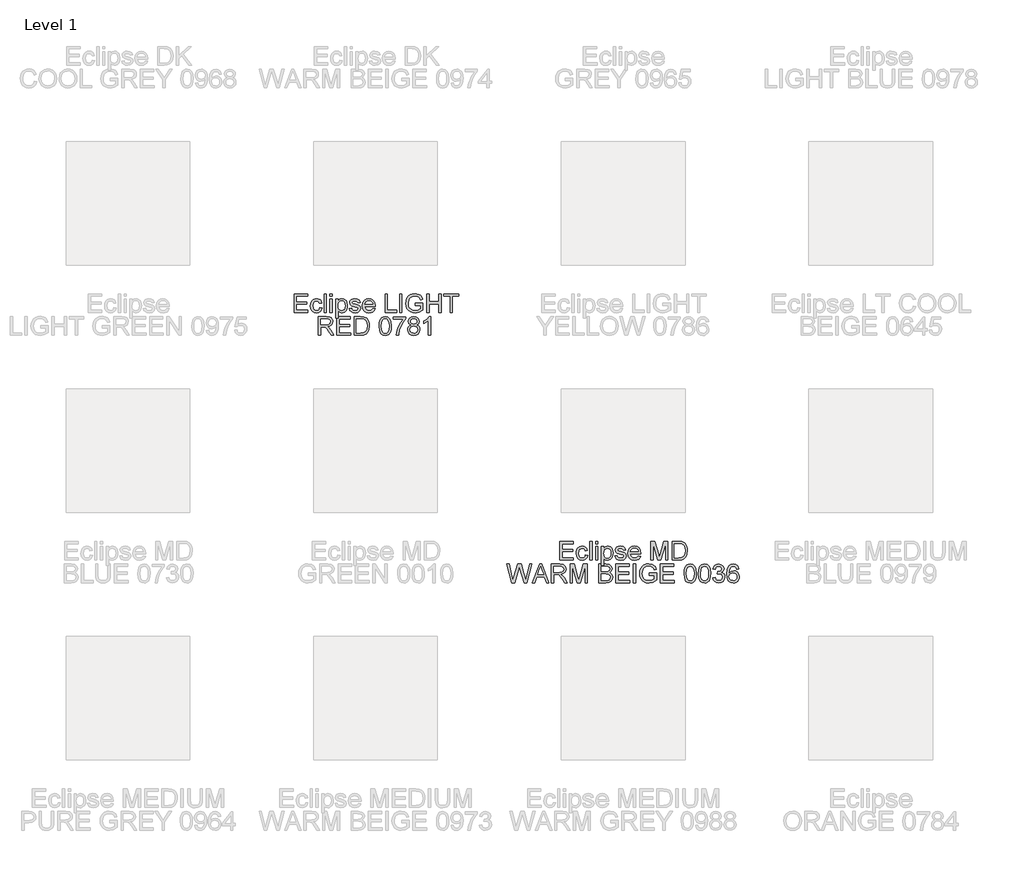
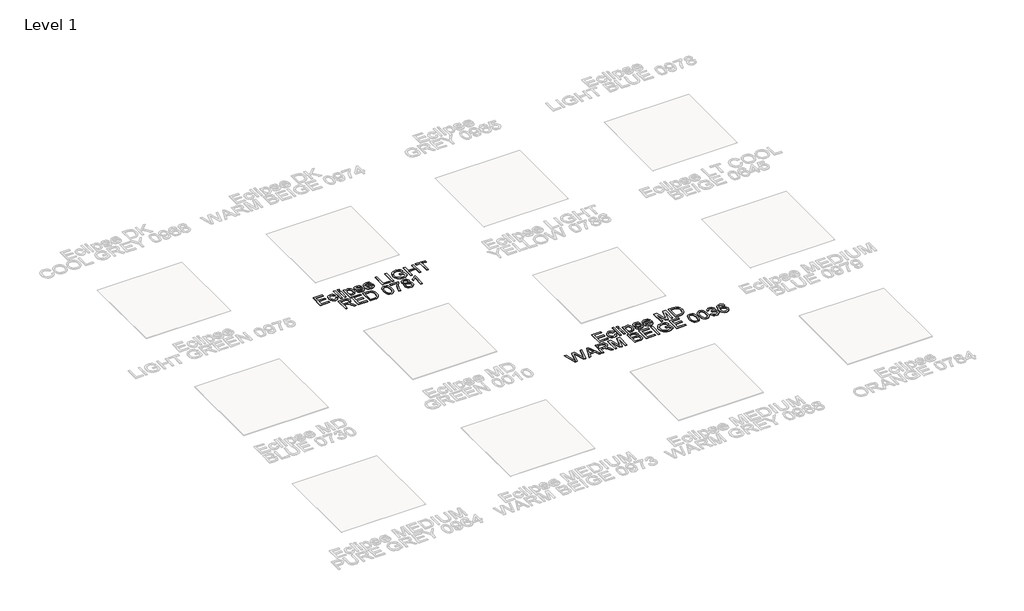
# One storey, part 8 of 13: 2 proxies.
"""IFC4 building model written with IfcOpenShell, lengths in millimetres."""

from ifc_helpers import new_model, si_unit, origin, origin_with_axes, place, context, project, spatial, polyline, outline, extrude, element, save

model = new_model("IFC4")

# Units and contexts
model_context = context("Model", 3, world=origin())
ifc_project = project(units=[si_unit("LENGTHUNIT", "METRE", prefix="MILLI")], contexts=[model_context])

# Site, building, storey
site = spatial("IfcSite", under=ifc_project)
building = spatial("IfcBuilding", under=site)
storey = spatial("IfcBuildingStorey", under=building, Name="Level 1", Elevation=0.0)

# Proxies
placement = place(None, origin())
element("IfcBuildingElementProxy", 1, Name="150mm Arial", ObjectType="150mm Arial", at=placement, inside=storey, context=model_context, shape_type="SweptSolid", body=[
    extrude(outline(polyline([(1407.9918437, -1362.9455422), (1407.9918437, -1212.261077), (1516.2963031, -1212.261077), (1516.2963031, -1231.0966352), (1426.8274019, -1231.0966352), (1426.8274019, -1275.8310858), (1511.5874136, -1275.8310858), (1511.5874136, -1294.6666439), (1426.8274019, -1294.6666439), (1426.8274019, -1344.1099841), (1518.6507479, -1344.1099841), (1518.6507479, -1362.9455422), (1407.9918437, -1362.9455422)])), origin_with_axes(), (0.0, 0.0, 1.0), 5.0),
    extrude(outline(polyline([(1615.1829834, -1322.9199812), (1634.0185416, -1325.2744259), (1628.7670261, -1342.0268523), (1618.8985916, -1354.6865914), (1605.34214, -1362.6466381), (1589.0265735, -1365.299987), (1568.9908004, -1361.5981744), (1553.3236259, -1350.4927367), (1543.2114696, -1332.4711175), (1539.8407508, -1308.0207603), (1541.2800891, -1291.2591369), (1545.598104, -1276.7323967), (1552.8637734, -1265.0015595), (1563.1460752, -1256.6276456), (1575.4471294, -1251.6060564), (1588.7690561, -1249.9321933), (1604.684551, -1252.2314558), (1617.4086695, -1259.1292432), (1626.5367415, -1270.2576735), (1631.6640968, -1285.2488648), (1612.8285386, -1287.6033096), (1604.0913412, -1273.4950351), (1588.9162089, -1268.7677515), (1576.7439134, -1271.0946051), (1567.0824125, -1278.0751659), (1560.7778348, -1290.0865131), (1558.6763089, -1307.5057256), (1560.7318496, -1325.1594628), (1566.8984715, -1337.2121967), (1576.3852285, -1344.1513708), (1588.4011742, -1346.4644288), (1598.1546455, -1345.020492), (1606.1514804, -1340.6886815), (1611.9686145, -1333.3586328), (1615.1829834, -1322.9199812)])), origin_with_axes(), (0.0, 0.0, 1.0), 5.0),
    extrude(outline(polyline([(1650.4996549, -1362.9455422), (1650.4996549, -1212.261077), (1669.3352131, -1212.261077), (1669.3352131, -1362.9455422), (1650.4996549, -1362.9455422)])), origin_with_axes(), (0.0, 0.0, 1.0), 5.0),
    extrude(outline(polyline([(1697.5885503, -1231.0966352), (1697.5885503, -1212.261077), (1716.4241085, -1212.261077), (1716.4241085, -1231.0966352), (1697.5885503, -1231.0966352)])), origin_with_axes(), (0.0, 0.0, 1.0), 5.0),
    extrude(outline(polyline([(1697.5885503, -1362.9455422), (1697.5885503, -1252.2866381), (1716.4241085, -1252.2866381), (1716.4241085, -1362.9455422), (1697.5885503, -1362.9455422)])), origin_with_axes(), (0.0, 0.0, 1.0), 5.0),
    extrude(outline(polyline([(1744.6774457, -1405.3255481), (1744.6774457, -1252.2866381), (1763.5130039, -1252.2866381), (1763.5130039, -1270.7543142), (1776.5360265, -1255.1377235), (1794.1207859, -1249.9321933), (1806.8586999, -1251.7532092), (1817.9963273, -1257.2162568), (1827.0646185, -1265.9902424), (1833.5945239, -1277.7440721), (1838.8552365, -1306.7699616), (1837.3699129, -1322.8785944), (1832.9139422, -1337.2857731), (1825.6298787, -1349.260332), (1815.6602767, -1358.0711058), (1804.0490012, -1363.4927667), (1791.8399175, -1365.299987), (1775.4507746, -1360.4623388), (1763.5130039, -1348.2302624), (1763.5130039, -1405.3255481), (1744.6774457, -1405.3255481)]), holes=[polyline([(1763.5130039, -1308.4990069), (1765.5501504, -1325.3847905), (1771.66159, -1337.1938026), (1780.6792975, -1344.1467723), (1791.4352473, -1346.4644288), (1802.3659411, -1344.0639988), (1811.6135747, -1336.8627088), (1817.9181524, -1324.6214354), (1820.0196783, -1307.1010554), (1817.9687362, -1290.3072423), (1811.8159098, -1278.3326833), (1802.811998, -1271.1589844), (1792.2077995, -1268.7677515), (1781.5622142, -1271.3107358), (1772.213413, -1278.9396886), (1765.6881062, -1291.4154868), (1763.5130039, -1308.4990069)])]), origin_with_axes(), (0.0, 0.0, 1.0), 5.0),
    extrude(outline(polyline([(1852.9819051, -1329.9833155), (1871.8174632, -1327.6288707), (1874.7881103, -1335.6854864), (1880.5362665, -1341.6083865), (1900.5122589, -1346.4644288), (1919.715699, -1342.0130567), (1925.9696929, -1331.565208), (1924.3969974, -1326.764348), (1919.6789108, -1323.1039222), (1900.2915297, -1317.732845), (1871.9278278, -1308.517401), (1859.5485987, -1297.7568527), (1855.3363499, -1282.5633263), (1858.7208642, -1268.5286282), (1867.9547023, -1257.804868), (1879.9292612, -1252.2314558), (1896.1344631, -1249.9321933), (1919.0535114, -1253.6294074), (1933.6216384, -1263.6357976), (1940.0963615, -1280.5399753), (1921.2608034, -1282.8944201), (1914.179075, -1272.5017537), (1897.6059911, -1268.7677515), (1879.5797733, -1272.3362068), (1874.171908, -1280.6503399), (1876.4159882, -1286.1317816), (1883.4425343, -1290.2888482), (1899.6661303, -1294.2987619), (1927.3124622, -1303.164718), (1940.1515438, -1313.2078965), (1944.8052511, -1329.5786453), (1939.3422035, -1347.604863), (1923.57846, -1360.683068), (1900.2547415, -1365.299987), (1881.2628335, -1363.0743009), (1867.4028793, -1356.3972427), (1858.1506471, -1345.3423888), (1852.9819051, -1329.9833155)])), origin_with_axes(), (0.0, 0.0, 1.0), 5.0),
    extrude(outline(polyline([(2043.4712022, -1329.9833155), (2061.9388783, -1332.3377602), (2055.2848128, -1346.2528967), (2044.6668187, -1356.6547601), (2030.3240194, -1363.1386803), (2012.4955382, -1365.299987), (1990.3950273, -1361.5705833), (1973.3896821, -1350.3823721), (1962.5463603, -1332.4619204), (1958.9319197, -1308.5357951), (1962.5831485, -1283.804928), (1973.5368349, -1265.3096607), (1990.3122539, -1253.7765602), (2011.4286804, -1249.9321933), (2031.8875179, -1253.7673631), (2048.235274, -1265.2728725), (2058.9544357, -1283.7313516), (2062.5274895, -1308.4254305), (2062.4171249, -1313.5022021), (1977.7674778, -1313.5022021), (1981.027832, -1327.6012795), (1988.6016026, -1337.9663548), (1999.5322964, -1344.3399103), (2012.8634202, -1346.4644288), (2031.3310963, -1342.5280915), (2043.4712022, -1329.9833155)]), holes=[polyline([(1977.7674778, -1294.6666439), (2043.6919314, -1294.6666439), (2041.1443486, -1284.715436), (2036.1503505, -1277.5969193), (2025.1690729, -1270.9750434), (2011.355104, -1268.7677515), (1998.6585766, -1270.5289865), (1988.1601442, -1275.8126917), (1980.8622851, -1284.0486498), (1977.7674778, -1294.6666439)])]), origin_with_axes(), (0.0, 0.0, 1.0), 5.0),
    extrude(outline(polyline([(2142.5786117, -1362.9455422), (2142.5786117, -1212.261077), (2161.4141698, -1212.261077), (2161.4141698, -1344.1099841), (2236.7564025, -1344.1099841), (2236.7564025, -1362.9455422), (2142.5786117, -1362.9455422)])), origin_with_axes(), (0.0, 0.0, 1.0), 5.0),
    extrude(outline(polyline([(2260.3008501, -1362.9455422), (2260.3008501, -1212.261077), (2279.1364083, -1212.261077), (2279.1364083, -1362.9455422), (2260.3008501, -1362.9455422)])), origin_with_axes(), (0.0, 0.0, 1.0), 5.0),
    extrude(outline(polyline([(2387.4408677, -1304.084423), (2387.4408677, -1285.2488648), (2448.6564317, -1285.2488648), (2448.6564317, -1341.5715983), (2418.4349258, -1359.3402987), (2386.4843745, -1365.299987), (2365.3541524, -1362.9317467), (2346.2564783, -1355.8270256), (2330.3915673, -1344.2341443), (2318.9596343, -1328.4014229), (2312.0480513, -1309.4095149), (2309.7441903, -1288.3390736), (2312.0388542, -1267.116881), (2318.9228461, -1247.3754134), (2330.1110573, -1230.8161251), (2345.3183792, -1219.1404703), (2363.8412377, -1212.2150918), (2384.9760583, -1209.9066322), (2414.4434061, -1215.2593153), (2426.1926373, -1221.660462), (2435.0999802, -1230.1585361), (2446.4859279, -1255.0825412), (2429.1218977, -1259.9753718), (2420.5318531, -1242.5561593), (2405.8533615, -1232.5129808), (2384.6817527, -1228.7421904), (2360.5670879, -1232.8072864), (2344.1595509, -1243.4758643), (2334.4658604, -1257.988809), (2328.5797484, -1287.5665214), (2330.3501805, -1305.5789436), (2335.6614769, -1320.3999895), (2344.352689, -1331.923893), (2356.2628686, -1340.044888), (2370.2009977, -1344.8595436), (2384.9760583, -1346.4644288), (2410.7461921, -1341.6267806), (2429.8208735, -1331.3076906), (2429.8208735, -1304.084423), (2387.4408677, -1304.084423)])), origin_with_axes(), (0.0, 0.0, 1.0), 5.0),
    extrude(outline(polyline([(2479.2642137, -1362.9455422), (2479.2642137, -1212.261077), (2498.0997718, -1212.261077), (2498.0997718, -1273.476641), (2578.150894, -1273.476641), (2578.150894, -1212.261077), (2596.9864521, -1212.261077), (2596.9864521, -1362.9455422), (2578.150894, -1362.9455422), (2578.150894, -1292.3121992), (2498.0997718, -1292.3121992), (2498.0997718, -1362.9455422), (2479.2642137, -1362.9455422)])), origin_with_axes(), (0.0, 0.0, 1.0), 5.0),
    extrude(outline(polyline([(2667.6197952, -1362.9455422), (2667.6197952, -1231.0966352), (2618.1764551, -1231.0966352), (2618.1764551, -1212.261077), (2735.8986935, -1212.261077), (2735.8986935, -1231.0966352), (2686.4553534, -1231.0966352), (2686.4553534, -1362.9455422), (2667.6197952, -1362.9455422)])), origin_with_axes(), (0.0, 0.0, 1.0), 5.0),
    extrude(outline(polyline([(1602.2335372, -1545.907769), (1602.2335372, -1395.2233038), (1667.1647093, -1395.2233038), (1697.3126388, -1399.2883998), (1706.5924622, -1404.9169943), (1713.7937522, -1413.6725858), (1718.4152698, -1424.5297032), (1719.9557756, -1436.4628754), (1717.4035943, -1451.3069139), (1709.7470503, -1463.6125667), (1696.7562173, -1472.6348726), (1678.2011692, -1477.6288707), (1688.9065352, -1485.6854864), (1704.173638, -1505.0728675), (1729.2999783, -1545.907769), (1707.4109996, -1545.907769), (1687.8028892, -1514.6745876), (1673.6394324, -1493.9996195), (1663.6882245, -1484.2323525), (1654.7302979, -1480.6455031), (1643.8042026, -1479.9833155), (1621.0690953, -1479.9833155), (1621.0690953, -1545.907769), (1602.2335372, -1545.907769)]), holes=[polyline([(1621.0690953, -1461.1477573), (1663.228372, -1461.1477573), (1684.7310746, -1458.4806128), (1696.9447568, -1449.9457506), (1701.1202175, -1437.1618512), (1699.1290562, -1427.9739984), (1693.1555723, -1420.5703732), (1682.877869, -1415.6867398), (1667.9740497, -1414.0588619), (1621.0690953, -1414.0588619), (1621.0690953, -1461.1477573)])]), origin_with_axes(), (0.0, 0.0, 1.0), 5.0),
    extrude(outline(polyline([(1752.9180024, -1545.907769), (1752.9180024, -1395.2233038), (1861.2224618, -1395.2233038), (1861.2224618, -1414.0588619), (1771.7535605, -1414.0588619), (1771.7535605, -1458.7933125), (1856.5135722, -1458.7933125), (1856.5135722, -1477.6288707), (1771.7535605, -1477.6288707), (1771.7535605, -1527.0722108), (1863.5769065, -1527.0722108), (1863.5769065, -1545.907769), (1752.9180024, -1545.907769)])), origin_with_axes(), (0.0, 0.0, 1.0), 5.0),
    extrude(outline(polyline([(1891.8302438, -1545.907769), (1891.8302438, -1395.2233038), (1943.8119697, -1395.2233038), (1970.7041435, -1397.3938075), (1992.8506396, -1408.17275), (2003.2708972, -1419.6506683), (2010.6929164, -1433.9244897), (2015.1350915, -1450.7183027), (2016.6158165, -1469.756196), (2012.6059028, -1500.1616429), (2002.3052069, -1522.1058039), (1988.5464203, -1535.77262), (1970.5385966, -1543.332595), (1946.3135673, -1545.907769), (1891.8302438, -1545.907769)]), holes=[polyline([(1910.6658019, -1527.0722108), (1943.9959107, -1527.0722108), (1968.2393342, -1524.3498841), (1982.21885, -1516.6611504), (1993.6783741, -1497.9543509), (1997.7802584, -1469.4618904), (1995.770703, -1448.9340751), (1989.7420368, -1433.7773369), (1980.834694, -1423.3662764), (1970.1891087, -1417.0754943), (1943.4808759, -1414.0588619), (1910.6658019, -1414.0588619), (1910.6658019, -1527.0722108)])]), origin_with_axes(), (0.0, 0.0, 1.0), 5.0),
    extrude(outline(polyline([(2094.3124939, -1471.779547), (2095.6966499, -1447.6602837), (2099.8491179, -1428.4246538), (2106.7285113, -1413.7783519), (2116.2934431, -1403.4270723), (2128.6128914, -1397.2742459), (2143.7558341, -1395.2233038), (2165.7551774, -1400.0793461), (2180.9487038, -1414.077256), (2189.7778717, -1436.3709049), (2193.1991742, -1471.779547), (2191.8288138, -1495.7608545), (2187.7177325, -1514.9504991), (2180.8797259, -1529.6105966), (2171.3285896, -1540.003263), (2158.9815501, -1546.1974761), (2143.7558341, -1548.2622138), (2124.1845119, -1544.6753643), (2109.3220793, -1533.914816), (2098.0648903, -1508.4297907), (2094.3124939, -1471.779547)]), holes=[polyline([(2113.1480521, -1471.7427588), (2115.355344, -1501.371055), (2121.97722, -1518.5189545), (2131.8364574, -1526.6997303), (2143.7558341, -1529.4266556), (2155.6752107, -1526.6905333), (2165.5344482, -1518.4821663), (2172.1563241, -1501.3250697), (2174.3636161, -1471.7427588), (2172.2299005, -1442.7812487), (2165.8287538, -1425.499992), (2155.9879104, -1416.9191444), (2143.5351049, -1414.0588619), (2131.7444869, -1416.5788536), (2122.2715256, -1424.1388286), (2115.4289204, -1442.4961402), (2113.1480521, -1471.7427588)])]), origin_with_axes(), (0.0, 0.0, 1.0), 5.0),
    extrude(outline(polyline([(2209.6802876, -1416.4133067), (2209.6802876, -1397.5777485), (2308.5669679, -1397.5777485), (2308.5669679, -1412.8080631), (2280.5159658, -1453.3302649), (2268.2057145, -1478.7922975), (2259.0500514, -1504.9625029), (2252.0602935, -1545.907769), (2233.2247353, -1545.907769), (2240.7111339, -1503.4173986), (2249.4253387, -1478.9578444), (2261.2573433, -1455.3904041), (2289.7314098, -1416.4133067), (2209.6802876, -1416.4133067)])), origin_with_axes(), (0.0, 0.0, 1.0), 5.0),
    extrude(outline(polyline([(2352.4920781, -1462.9135909), (2335.3303831, -1451.2149434), (2329.7569708, -1433.0047847), (2332.7919973, -1418.2803078), (2341.8970767, -1406.1126108), (2356.0513364, -1397.9456305), (2374.233904, -1395.2233038), (2392.5268363, -1398.0100099), (2406.865037, -1406.3701282), (2416.1356633, -1418.7309633), (2419.2258721, -1433.5198195), (2413.7260362, -1451.2701257), (2397.0425877, -1462.9135909), (2408.6354691, -1468.8870748), (2417.0737624, -1477.684053), (2422.2195118, -1488.8814612), (2423.9347616, -1502.0562352), (2420.5318531, -1520.0640588), (2410.3231278, -1534.9448855), (2394.5593843, -1544.9328817), (2374.4914214, -1548.2622138), (2354.4234586, -1544.9190861), (2338.6597151, -1534.8897032), (2328.4509897, -1519.8663223), (2325.0480813, -1501.5412004), (2326.832309, -1487.8559902), (2332.184992, -1476.5988011), (2340.8302189, -1468.1559093), (2352.4920781, -1462.9135909)]), holes=[polyline([(2343.8836394, -1500.8790128), (2347.0290305, -1515.0608637), (2358.1574609, -1525.6742593), (2374.6385742, -1529.4266556), (2387.4592618, -1527.4538884), (2397.0793759, -1521.5355868), (2403.0942466, -1512.5730617), (2405.0992034, -1501.467624), (2403.0298672, -1490.1736467), (2396.8218586, -1481.013385), (2386.9810152, -1474.9433321), (2374.0131749, -1472.9199812), (2361.3718298, -1474.915741), (2351.8482846, -1480.9030204), (2345.8748007, -1489.8885382), (2343.8836394, -1500.8790128)]), polyline([(2348.592529, -1433.5566077), (2350.2617935, -1441.7787703), (2355.2695872, -1448.3454639), (2363.4687572, -1452.6496832), (2374.7121506, -1454.084423), (2385.6934282, -1452.6588803), (2393.768438, -1448.3822521), (2398.7348449, -1442.0362877), (2400.3903139, -1434.4027363), (2398.6796626, -1426.4794778), (2393.5477088, -1419.9265797), (2385.3623344, -1415.5257914), (2374.4914214, -1414.0588619), (2363.5515306, -1415.4936017), (2355.3799518, -1419.7978211), (2350.2893847, -1426.1069973), (2348.592529, -1433.5566077)])]), origin_with_axes(), (0.0, 0.0, 1.0), 5.0),
    extrude(outline(polyline([(2511.0492181, -1545.907769), (2492.2136599, -1545.907769), (2492.2136599, -1428.4798361), (2474.3713831, -1441.1901591), (2454.5425436, -1450.6999086), (2454.5425436, -1432.8944201), (2482.1520873, -1415.2728725), (2498.9091122, -1395.2233038), (2511.0492181, -1395.2233038), (2511.0492181, -1545.907769)])), origin_with_axes(), (0.0, 0.0, 1.0), 5.0),
])
element("IfcBuildingElementProxy", 2, Name="150mm Arial", ObjectType="150mm Arial", at=placement, inside=storey, context=model_context, shape_type="SweptSolid", body=[
    extrude(outline(polyline([(3553.9674194, -3362.9455422), (3553.9674194, -3212.261077), (3662.2718788, -3212.261077), (3662.2718788, -3231.0966352), (3572.8029776, -3231.0966352), (3572.8029776, -3275.8310858), (3657.5629892, -3275.8310858), (3657.5629892, -3294.6666439), (3572.8029776, -3294.6666439), (3572.8029776, -3344.1099841), (3664.6263236, -3344.1099841), (3664.6263236, -3362.9455422), (3553.9674194, -3362.9455422)])), origin_with_axes(), (0.0, 0.0, 1.0), 5.0),
    extrude(outline(polyline([(3761.1585591, -3322.9199812), (3779.9941172, -3325.2744259), (3774.7426018, -3342.0268523), (3764.8741672, -3354.6865914), (3751.3177157, -3362.6466381), (3735.0021492, -3365.299987), (3714.9663761, -3361.5981744), (3699.2992016, -3350.4927367), (3689.1870453, -3332.4711175), (3685.8163265, -3308.0207603), (3687.2556648, -3291.2591369), (3691.5736797, -3276.7323967), (3698.8393491, -3265.0015595), (3709.1216509, -3256.6276456), (3721.4227051, -3251.6060564), (3734.7446318, -3249.9321933), (3750.6601266, -3252.2314558), (3763.3842452, -3259.1292432), (3772.5123172, -3270.2576735), (3777.6396725, -3285.2488648), (3758.8041143, -3287.6033096), (3750.0669169, -3273.4950351), (3734.8917846, -3268.7677515), (3722.7194891, -3271.0946051), (3713.0579882, -3278.0751659), (3706.7534105, -3290.0865131), (3704.6518846, -3307.5057256), (3706.7074253, -3325.1594628), (3712.8740472, -3337.2121967), (3722.3608042, -3344.1513708), (3734.3767498, -3346.4644288), (3744.1302212, -3345.020492), (3752.1270561, -3340.6886815), (3757.9441902, -3333.3586328), (3761.1585591, -3322.9199812)])), origin_with_axes(), (0.0, 0.0, 1.0), 5.0),
    extrude(outline(polyline([(3796.4752306, -3362.9455422), (3796.4752306, -3212.261077), (3815.3107888, -3212.261077), (3815.3107888, -3362.9455422), (3796.4752306, -3362.9455422)])), origin_with_axes(), (0.0, 0.0, 1.0), 5.0),
    extrude(outline(polyline([(3843.564126, -3231.0966352), (3843.564126, -3212.261077), (3862.3996842, -3212.261077), (3862.3996842, -3231.0966352), (3843.564126, -3231.0966352)])), origin_with_axes(), (0.0, 0.0, 1.0), 5.0),
    extrude(outline(polyline([(3843.564126, -3362.9455422), (3843.564126, -3252.2866381), (3862.3996842, -3252.2866381), (3862.3996842, -3362.9455422), (3843.564126, -3362.9455422)])), origin_with_axes(), (0.0, 0.0, 1.0), 5.0),
    extrude(outline(polyline([(3890.6530214, -3405.3255481), (3890.6530214, -3252.2866381), (3909.4885795, -3252.2866381), (3909.4885795, -3270.7543142), (3922.5116022, -3255.1377235), (3940.0963615, -3249.9321933), (3952.8342756, -3251.7532092), (3963.971903, -3257.2162568), (3973.0401942, -3265.9902424), (3979.5700996, -3277.7440721), (3984.8308122, -3306.7699616), (3983.3454886, -3322.8785944), (3978.8895179, -3337.2857731), (3971.6054544, -3349.260332), (3961.6358524, -3358.0711058), (3950.0245769, -3363.4927667), (3937.8154932, -3365.299987), (3921.4263503, -3360.4623388), (3909.4885795, -3348.2302624), (3909.4885795, -3405.3255481), (3890.6530214, -3405.3255481)]), holes=[polyline([(3909.4885795, -3308.4990069), (3911.5257261, -3325.3847905), (3917.6371657, -3337.1938026), (3926.6548731, -3344.1467723), (3937.410823, -3346.4644288), (3948.3415168, -3344.0639988), (3957.5891504, -3336.8627088), (3963.8937281, -3324.6214354), (3965.995254, -3307.1010554), (3963.9443119, -3290.3072423), (3957.7914855, -3278.3326833), (3948.7875737, -3271.1589844), (3938.1833752, -3268.7677515), (3927.5377899, -3271.3107358), (3918.1889887, -3278.9396886), (3911.6636818, -3291.4154868), (3909.4885795, -3308.4990069)])]), origin_with_axes(), (0.0, 0.0, 1.0), 5.0),
    extrude(outline(polyline([(3998.9574808, -3329.9833155), (4017.7930389, -3327.6288707), (4020.763686, -3335.6854864), (4026.5118422, -3341.6083865), (4046.4878345, -3346.4644288), (4065.6912747, -3342.0130567), (4071.9452686, -3331.565208), (4070.3725731, -3326.764348), (4065.6544865, -3323.1039222), (4046.2671053, -3317.732845), (4017.9034035, -3308.517401), (4005.5241744, -3297.7568527), (4001.3119255, -3282.5633263), (4004.6964399, -3268.5286282), (4013.930278, -3257.804868), (4025.9048369, -3252.2314558), (4042.1100388, -3249.9321933), (4065.0290871, -3253.6294074), (4079.5972141, -3263.6357976), (4086.0719372, -3280.5399753), (4067.2363791, -3282.8944201), (4060.1546507, -3272.5017537), (4043.5815668, -3268.7677515), (4025.555349, -3272.3362068), (4020.1474837, -3280.6503399), (4022.3915639, -3286.1317816), (4029.41811, -3290.2888482), (4045.641706, -3294.2987619), (4073.2880379, -3303.164718), (4086.1271195, -3313.2078965), (4090.7808268, -3329.5786453), (4085.3177791, -3347.604863), (4069.5540356, -3360.683068), (4046.2303171, -3365.299987), (4027.2384091, -3363.0743009), (4013.378455, -3356.3972427), (4004.1262228, -3345.3423888), (3998.9574808, -3329.9833155)])), origin_with_axes(), (0.0, 0.0, 1.0), 5.0),
    extrude(outline(polyline([(4189.4467779, -3329.9833155), (4207.914454, -3332.3377602), (4201.2603884, -3346.2528967), (4190.6423944, -3356.6547601), (4176.2995951, -3363.1386803), (4158.4711139, -3365.299987), (4136.370603, -3361.5705833), (4119.3652578, -3350.3823721), (4108.521936, -3332.4619204), (4104.9074954, -3308.5357951), (4108.5587242, -3283.804928), (4119.5124106, -3265.3096607), (4136.2878296, -3253.7765602), (4157.4042561, -3249.9321933), (4177.8630935, -3253.7673631), (4194.2108497, -3265.2728725), (4204.9300113, -3283.7313516), (4208.5030652, -3308.4254305), (4208.3927006, -3313.5022021), (4123.7430535, -3313.5022021), (4127.0034077, -3327.6012795), (4134.5771783, -3337.9663548), (4145.5078721, -3344.3399103), (4158.8389959, -3346.4644288), (4177.306672, -3342.5280915), (4189.4467779, -3329.9833155)]), holes=[polyline([(4123.7430535, -3294.6666439), (4189.6675071, -3294.6666439), (4187.1199243, -3284.715436), (4182.1259262, -3277.5969193), (4171.1446486, -3270.9750434), (4157.3306797, -3268.7677515), (4144.6341523, -3270.5289865), (4134.1357199, -3275.8126917), (4126.8378608, -3284.0486498), (4123.7430535, -3294.6666439)])]), origin_with_axes(), (0.0, 0.0, 1.0), 5.0),
    extrude(outline(polyline([(4288.5541874, -3362.9455422), (4288.5541874, -3212.261077), (4320.9645911, -3212.261077), (4351.7931023, -3318.468609), (4358.0103081, -3340.6518933), (4364.7425486, -3316.629199), (4395.056025, -3212.261077), (4427.4664288, -3212.261077), (4427.4664288, -3362.9455422), (4408.6308706, -3362.9455422), (4408.6308706, -3231.0966352), (4370.7758133, -3362.9455422), (4345.2448028, -3362.9455422), (4307.3897455, -3231.0966352), (4307.3897455, -3362.9455422), (4288.5541874, -3362.9455422)])), origin_with_axes(), (0.0, 0.0, 1.0), 5.0),
    extrude(outline(polyline([(4460.4286555, -3362.9455422), (4460.4286555, -3212.261077), (4512.4103814, -3212.261077), (4539.3025553, -3214.4315808), (4561.4490514, -3225.2105232), (4571.8693089, -3236.6884415), (4579.2913282, -3250.9622629), (4583.7335033, -3267.756076), (4585.2142283, -3286.7939692), (4581.2043145, -3317.1994161), (4570.9036187, -3339.1435771), (4557.1448321, -3352.8103933), (4539.1370084, -3360.3703683), (4514.911979, -3362.9455422), (4460.4286555, -3362.9455422)]), holes=[polyline([(4479.2642137, -3344.1099841), (4512.5943224, -3344.1099841), (4536.8377459, -3341.3876573), (4550.8172617, -3333.6989236), (4562.2767859, -3314.9921242), (4566.3786701, -3286.4996636), (4564.3691147, -3265.9718483), (4558.3404485, -3250.8151101), (4549.4331057, -3240.4040496), (4538.7875205, -3234.1132675), (4512.0792876, -3231.0966352), (4479.2642137, -3231.0966352), (4479.2642137, -3344.1099841)])]), origin_with_axes(), (0.0, 0.0, 1.0), 5.0),
    extrude(outline(polyline([(3165.3736679, -3545.907769), (3124.281249, -3395.2233038), (3143.7054184, -3395.2233038), (3167.5441717, -3494.2571369), (3174.9018116, -3524.8281307), (3182.7744863, -3497.788804), (3212.6465043, -3395.2233038), (3240.6423241, -3395.2233038), (3262.3473618, -3469.572255), (3278.4973814, -3524.8281307), (3285.6342921, -3495.1400537), (3309.6937746, -3395.2233038), (3329.117944, -3395.2233038), (3287.9887369, -3545.907769), (3267.8655918, -3545.907769), (3231.7395798, -3429.6570585), (3226.6995965, -3413.4334625), (3221.0342138, -3432.9679965), (3188.1087752, -3545.907769), (3165.3736679, -3545.907769)])), origin_with_axes(), (0.0, 0.0, 1.0), 5.0),
    extrude(outline(polyline([(3330.4055309, -3545.907769), (3390.5542371, -3395.2233038), (3406.5938921, -3395.2233038), (3466.7425983, -3545.907769), (3446.8401824, -3545.907769), (3429.5865168, -3498.8188736), (3367.5248242, -3498.8188736), (3350.3079469, -3545.907769), (3330.4055309, -3545.907769)]), holes=[polyline([(3374.4410058, -3479.9833155), (3422.7071235, -3479.9833155), (3409.1322779, -3442.9375985), (3398.5740646, -3414.0588619), (3389.1930738, -3439.700237), (3374.4410058, -3479.9833155)])]), origin_with_axes(), (0.0, 0.0, 1.0), 5.0),
    extrude(outline(polyline([(3486.8657435, -3545.907769), (3486.8657435, -3395.2233038), (3551.7969156, -3395.2233038), (3581.9448451, -3399.2883998), (3591.2246685, -3404.9169943), (3598.4259585, -3413.6725858), (3603.0474761, -3424.5297032), (3604.5879819, -3436.4628754), (3602.0358006, -3451.3069139), (3594.3792566, -3463.6125667), (3581.3884236, -3472.6348726), (3562.8333755, -3477.6288707), (3573.5387415, -3485.6854864), (3588.8058443, -3505.0728675), (3613.9321846, -3545.907769), (3592.0432059, -3545.907769), (3572.4350956, -3514.6745876), (3558.2716387, -3493.9996195), (3548.3204308, -3484.2323525), (3539.3625042, -3480.6455031), (3528.4364089, -3479.9833155), (3505.7013016, -3479.9833155), (3505.7013016, -3545.907769), (3486.8657435, -3545.907769)]), holes=[polyline([(3505.7013016, -3461.1477573), (3547.8605783, -3461.1477573), (3569.3632809, -3458.4806128), (3581.5769631, -3449.9457506), (3585.7524238, -3437.1618512), (3583.7612625, -3427.9739984), (3577.7877786, -3420.5703732), (3567.5100754, -3415.6867398), (3552.606256, -3414.0588619), (3505.7013016, -3414.0588619), (3505.7013016, -3461.1477573)])]), origin_with_axes(), (0.0, 0.0, 1.0), 5.0),
    extrude(outline(polyline([(3637.5502087, -3545.907769), (3637.5502087, -3395.2233038), (3669.9606125, -3395.2233038), (3700.7891237, -3501.4308358), (3707.0063294, -3523.6141201), (3713.7385699, -3499.5914258), (3744.0520463, -3395.2233038), (3776.4624501, -3395.2233038), (3776.4624501, -3545.907769), (3757.6268919, -3545.907769), (3757.6268919, -3414.0588619), (3719.7718346, -3545.907769), (3694.2408242, -3545.907769), (3656.3857669, -3414.0588619), (3656.3857669, -3545.907769), (3637.5502087, -3545.907769)])), origin_with_axes(), (0.0, 0.0, 1.0), 5.0),
    extrude(outline(polyline([(3868.2857961, -3545.907769), (3868.2857961, -3395.2233038), (3925.7857519, -3395.2233038), (3953.9471187, -3399.6562818), (3963.410883, -3405.2802778), (3970.5753848, -3413.2863097), (3976.5902555, -3432.5633263), (3971.531878, -3450.1664798), (3956.2463811, -3463.5022021), (3966.9195575, -3469.0756143), (3974.8060278, -3477.5552943), (3979.6758657, -3488.380222), (3981.299145, -3500.9893774), (3976.866167, -3521.2412812), (3965.8848894, -3535.6622554), (3949.4957465, -3543.3142009), (3925.3442935, -3545.907769), (3868.2857961, -3545.907769)]), holes=[polyline([(3887.1213542, -3456.4388678), (3921.5183208, -3456.4388678), (3941.6046777, -3454.820187), (3953.6896013, -3447.8488232), (3957.7546973, -3435.5799586), (3953.9655128, -3423.2927), (3943.1129939, -3416.0270306), (3918.9063586, -3414.0588619), (3887.1213542, -3414.0588619), (3887.1213542, -3456.4388678)]), polyline([(3887.1213542, -3527.0722108), (3925.7489637, -3527.0722108), (3939.7284795, -3526.3364469), (3951.5558857, -3522.2345626), (3959.3917722, -3513.8652472), (3962.4635868, -3501.1733184), (3958.8583433, -3486.531615), (3947.1780899, -3477.7944176), (3923.9095538, -3475.2744259), (3887.1213542, -3475.2744259), (3887.1213542, -3527.0722108)])]), origin_with_axes(), (0.0, 0.0, 1.0), 5.0),
    extrude(outline(polyline([(4007.1980375, -3545.907769), (4007.1980375, -3395.2233038), (4115.5024968, -3395.2233038), (4115.5024968, -3414.0588619), (4026.0335956, -3414.0588619), (4026.0335956, -3458.7933125), (4110.7936073, -3458.7933125), (4110.7936073, -3477.6288707), (4026.0335956, -3477.6288707), (4026.0335956, -3527.0722108), (4117.8569416, -3527.0722108), (4117.8569416, -3545.907769), (4007.1980375, -3545.907769)])), origin_with_axes(), (0.0, 0.0, 1.0), 5.0),
    extrude(outline(polyline([(4148.4647236, -3545.907769), (4148.4647236, -3395.2233038), (4167.3002818, -3395.2233038), (4167.3002818, -3545.907769), (4148.4647236, -3545.907769)])), origin_with_axes(), (0.0, 0.0, 1.0), 5.0),
    extrude(outline(polyline([(4275.6047411, -3487.0466498), (4275.6047411, -3468.2110916), (4336.8203051, -3468.2110916), (4336.8203051, -3524.5338251), (4306.5987992, -3542.3025254), (4274.648248, -3548.2622138), (4253.5180259, -3545.8939734), (4234.4203518, -3538.7892524), (4218.5554407, -3527.196371), (4207.1235077, -3511.3636497), (4200.2119248, -3492.3717416), (4197.9080638, -3471.3013004), (4200.2027277, -3450.0791078), (4207.0867195, -3430.3376402), (4218.2749307, -3413.7783519), (4233.4822527, -3402.1026971), (4252.0051112, -3395.1773185), (4273.1399318, -3392.868859), (4302.6072796, -3398.221542), (4314.3565108, -3404.6226887), (4323.2638536, -3413.1207628), (4334.6498014, -3438.044768), (4317.2857712, -3442.9375985), (4308.6957266, -3425.5183861), (4294.017235, -3415.4752076), (4272.8456262, -3411.7044172), (4248.7309614, -3415.7695132), (4232.3234244, -3426.4380911), (4222.6297338, -3440.9510358), (4216.7436219, -3470.5287482), (4218.514054, -3488.5411704), (4223.8253503, -3503.3622163), (4232.5165625, -3514.8861198), (4244.4267421, -3523.0071148), (4258.3648711, -3527.8217704), (4273.1399318, -3529.4266556), (4298.9100655, -3524.5890074), (4317.984747, -3514.2699174), (4317.984747, -3487.0466498), (4275.6047411, -3487.0466498)])), origin_with_axes(), (0.0, 0.0, 1.0), 5.0),
    extrude(outline(polyline([(4367.4280871, -3545.907769), (4367.4280871, -3395.2233038), (4475.7325465, -3395.2233038), (4475.7325465, -3414.0588619), (4386.2636453, -3414.0588619), (4386.2636453, -3458.7933125), (4471.023657, -3458.7933125), (4471.023657, -3477.6288707), (4386.2636453, -3477.6288707), (4386.2636453, -3527.0722108), (4478.0869913, -3527.0722108), (4478.0869913, -3545.907769), (4367.4280871, -3545.907769)])), origin_with_axes(), (0.0, 0.0, 1.0), 5.0),
    extrude(outline(polyline([(4558.1381134, -3471.779547), (4559.5222694, -3447.6602837), (4563.6747375, -3428.4246538), (4570.5541308, -3413.7783519), (4580.1190626, -3403.4270723), (4592.438511, -3397.2742459), (4607.5814536, -3395.2233038), (4629.5807969, -3400.0793461), (4644.7743233, -3414.077256), (4653.6034912, -3436.3709049), (4657.0247937, -3471.779547), (4655.6544333, -3495.7608545), (4651.543352, -3514.9504991), (4644.7053454, -3529.6105966), (4635.1542091, -3540.003263), (4622.8071697, -3546.1974761), (4607.5814536, -3548.2622138), (4588.0101314, -3544.6753643), (4573.1476988, -3533.914816), (4561.8905098, -3508.4297907), (4558.1381134, -3471.779547)]), holes=[polyline([(4576.9736716, -3471.7427588), (4579.1809636, -3501.371055), (4585.8028395, -3518.5189545), (4595.6620769, -3526.6997303), (4607.5814536, -3529.4266556), (4619.5008302, -3526.6905333), (4629.3600677, -3518.4821663), (4635.9819436, -3501.3250697), (4638.1892356, -3471.7427588), (4636.05552, -3442.7812487), (4629.6543733, -3425.499992), (4619.8135299, -3416.9191444), (4607.3607244, -3414.0588619), (4595.5701064, -3416.5788536), (4586.0971451, -3424.1388286), (4579.25454, -3442.4961402), (4576.9736716, -3471.7427588)])]), origin_with_axes(), (0.0, 0.0, 1.0), 5.0),
    extrude(outline(polyline([(4673.5059071, -3471.779547), (4674.8900631, -3447.6602837), (4679.0425312, -3428.4246538), (4685.9219245, -3413.7783519), (4695.4868563, -3403.4270723), (4707.8063047, -3397.2742459), (4722.9492473, -3395.2233038), (4744.9485906, -3400.0793461), (4760.142117, -3414.077256), (4768.9712849, -3436.3709049), (4772.3925874, -3471.779547), (4771.022227, -3495.7608545), (4766.9111457, -3514.9504991), (4760.0731391, -3529.6105966), (4750.5220028, -3540.003263), (4738.1749634, -3546.1974761), (4722.9492473, -3548.2622138), (4703.3779251, -3544.6753643), (4688.5154925, -3533.914816), (4677.2583035, -3508.4297907), (4673.5059071, -3471.779547)]), holes=[polyline([(4692.3414653, -3471.7427588), (4694.5487572, -3501.371055), (4701.1706332, -3518.5189545), (4711.0298706, -3526.6997303), (4722.9492473, -3529.4266556), (4734.8686239, -3526.6905333), (4744.7278614, -3518.4821663), (4751.3497373, -3501.3250697), (4753.5570293, -3471.7427588), (4751.4233137, -3442.7812487), (4745.022167, -3425.499992), (4735.1813236, -3416.9191444), (4722.7285181, -3414.0588619), (4710.9379001, -3416.5788536), (4701.4649388, -3424.1388286), (4694.6223336, -3442.4961402), (4692.3414653, -3471.7427588)])]), origin_with_axes(), (0.0, 0.0, 1.0), 5.0),
    extrude(outline(polyline([(4788.8737008, -3505.8822079), (4807.709259, -3503.5277632), (4811.9261063, -3515.3643663), (4818.1019253, -3523.3566027), (4826.5402186, -3527.9091424), (4837.5444888, -3529.4266556), (4850.4571468, -3527.3389253), (4860.4267489, -3521.0757343), (4866.8003044, -3511.7315316), (4868.924823, -3500.4007662), (4866.8186985, -3489.6448164), (4860.5003253, -3480.9214145), (4850.9353934, -3475.1410687), (4839.0895932, -3473.2142868), (4825.8826295, -3475.2744259), (4827.9795569, -3456.4388678), (4830.9961893, -3456.659597), (4852.3701332, -3451.2517316), (4859.4886498, -3444.3907324), (4861.8614887, -3434.6234655), (4860.1416403, -3426.4886748), (4854.9820953, -3419.8897915), (4847.1094206, -3415.5165943), (4837.2501832, -3414.0588619), (4827.3725516, -3415.5303899), (4819.2975418, -3419.9449738), (4813.4022328, -3427.3026138), (4810.0637037, -3437.6033096), (4791.2281456, -3435.2488648), (4796.7739667, -3418.3354901), (4806.6424012, -3405.7079406), (4820.1436704, -3397.844463), (4836.5879956, -3395.2233038), (4859.3047088, -3400.3920458), (4875.197211, -3414.5187144), (4880.6970468, -3433.5198195), (4875.4731225, -3450.8838496), (4860.0220787, -3463.3550493), (4871.8126966, -3468.1191211), (4880.549894, -3476.2309191), (4885.9577593, -3487.2489849), (4887.7603811, -3500.73186), (4884.1551376, -3519.0891715), (4873.3394069, -3534.4298507), (4857.0146434, -3544.804123), (4836.8823012, -3548.2622138), (4818.6721424, -3545.3099608), (4803.846498, -3536.4532017), (4793.5366051, -3522.9059472), (4788.8737008, -3505.8822079)])), origin_with_axes(), (0.0, 0.0, 1.0), 5.0),
    extrude(outline(polyline([(5000.77373, -3435.2488648), (4981.9381719, -3437.6033096), (4974.8012612, -3421.8947484), (4966.2572018, -3416.0178336), (4955.9289148, -3414.0588619), (4938.9327666, -3418.6205987), (4926.0752909, -3435.7455055), (4922.1711432, -3449.7756051), (4920.7226079, -3469.3147376), (4937.33248, -3454.2867581), (4957.9154776, -3449.3755335), (4975.316296, -3452.7324567), (4989.9212112, -3462.8032263), (4999.8264339, -3478.1898907), (5003.1281748, -3497.4944984), (5001.5738734, -3510.9819721), (4996.9109691, -3523.4853614), (4989.525738, -3534.0895599), (4979.8044563, -3541.8794612), (4968.1885823, -3546.6665256), (4955.1195744, -3548.2622138), (4933.750229, -3544.0315708), (4916.7310882, -3531.339642), (4905.5980594, -3508.9356285), (4901.8870497, -3475.5687315), (4906.0073281, -3438.0539651), (4918.3681631, -3412.4033929), (4935.2447496, -3399.5183261), (4957.1061372, -3395.2233038), (4973.6332358, -3397.8812512), (4986.8677906, -3405.8550934), (4996.1384169, -3418.5194311), (5000.77373, -3435.2488648)]), holes=[polyline([(4920.7226079, -3497.2001928), (4925.0820095, -3513.5157593), (4936.6702924, -3525.3615596), (4953.6480465, -3529.4266556), (4966.0778594, -3527.3205312), (4975.8497249, -3521.0021579), (4982.1818937, -3511.0693441), (4984.2926167, -3498.1198978), (4982.2094849, -3485.6900849), (4975.9600895, -3476.212525), (4966.0226771, -3470.21145), (4952.8754943, -3468.2110916), (4940.4640754, -3470.21145), (4930.0852047, -3476.212525), (4923.0632571, -3485.4601587), (4920.7226079, -3497.2001928)])]), origin_with_axes(), (0.0, 0.0, 1.0), 5.0),
])

save(model, "model.ifc")
